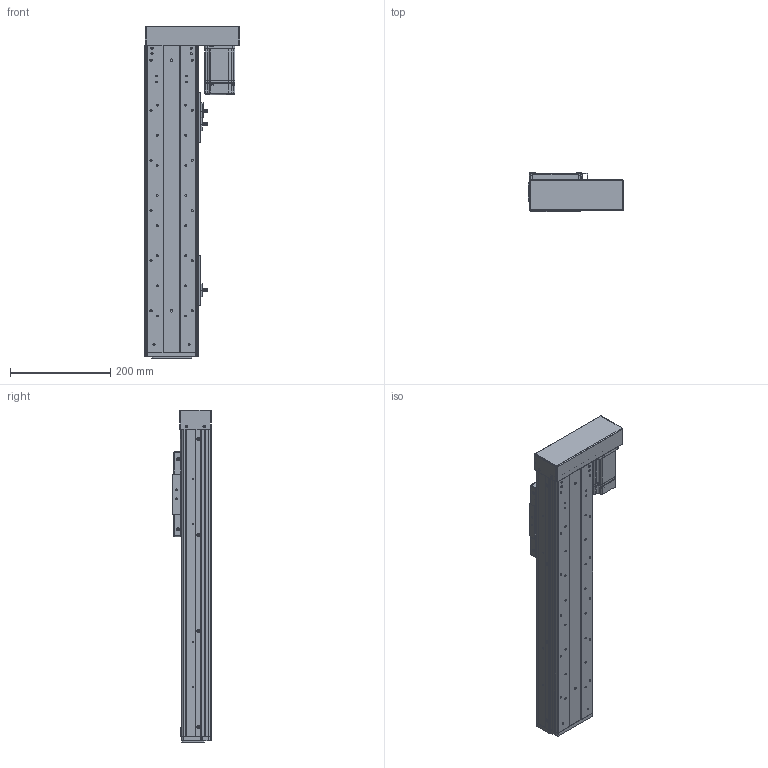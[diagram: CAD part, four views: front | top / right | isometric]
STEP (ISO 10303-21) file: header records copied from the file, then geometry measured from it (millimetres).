
FILE_DESCRIPTION (( 'STEP AP203' ), '1' );
FILE_NAME ('RY100FS-L1620-300-RK(15双轨).SLDASM_350.step', '2021-03-02T07:46:00', ( '盈信电脑' ), ( '东莞市道滘镇水果街19号' ), 'SwSTEP 2.0', 'SolidWorks 2012', '' );
FILE_SCHEMA (( 'CONFIG_CONTROL_DESIGN' ));
Length unit declared in the file: millimetre
Products named in the file (21): RY80俋离覜茼え; 672嫖萇羲壽假蚾釱; 覜茼ん672; RY100F-詩湍幗謫粣; 棠沺沭; RY100F-詩湍揤踡謫; RY100F-綴裔啣; RY100F-滅鳥裔啣; RY100FS-双轨铝滑块(上板）; RY100FS-300-RK15邧寢祥凄詩湍_350; RY100FS-300-RK15絳寢倰第奻裔啣_350; RY100FS-300-RK15絳寢倰第菁釱_350; RY100F-詩湍揤踡輸; RY100FS-L1620-300-RK(15邧寢).SLDASM_350; 蚥薯蝶紫輸; RY100FS-15邧寢蛌殏萇儂欶; RY100FS-15邧寢蛌殏萇儂釱; 1; RY100FS-15邧寢蛌殏萇儂啣; 滅袉蝶14-35; RY100FS-双轨螺母座(16丝杆）
Assembly tree (29 placements, depth 2):
  RY100FS-L1620-300-RK(15邧寢).SLDASM_350
    RY100FS-300-RK15絳寢倰第菁釱_350
    RY100FS-300-RK15絳寢倰第奻裔啣_350  x2
    RY100FS-300-RK15邧寢祥凄詩湍_350
    RY100FS-双轨铝滑块(上板）
    RY100F-滅鳥裔啣
    棠沺沭  x2
    RY100F-詩湍幗謫粣
    RY100F-詩湍揤踡謫  x2
    RY100F-綴裔啣
    672嫖萇羲壽假蚾釱  x2
    RY80俋离覜茼え  x2
    覜茼ん672  x3
    RY100F-詩湍揤踡輸  x2
    RY100FS-双轨螺母座(16丝杆）
    RY100FS-15邧寢蛌殏萇儂釱
    滅袉蝶14-35
    1
    RY100FS-15邧寢蛌殏萇儂啣
    RY100FS-15邧寢蛌殏萇儂欶
    蚥薯蝶紫輸  x2
Bounding box: 189.5 x 78.5 x 662 mm (x, y, z)
Volume: 1909238.6 mm3; surface area: 789572.8 mm2
Topology: 29 solids, 29 shells, 2177 faces, 5866 edges, 3781 vertices
Faces by surface type: plane 1017, cylinder 959, cone 168, bspline 33
Entity records: 61315 total; most frequent: CARTESIAN_POINT 12484, DIRECTION 9773, ORIENTED_EDGE 9536, EDGE_CURVE 4768, AXIS2_PLACEMENT_3D 3450, VERTEX_POINT 3129, VECTOR 2873, LINE 2873
